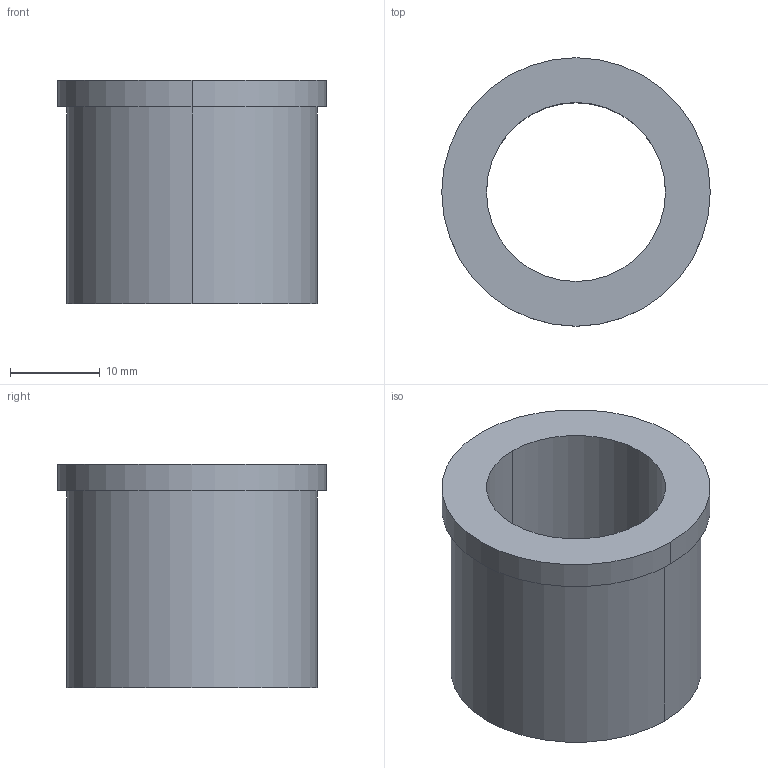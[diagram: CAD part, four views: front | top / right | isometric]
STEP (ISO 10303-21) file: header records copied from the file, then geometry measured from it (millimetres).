
FILE_DESCRIPTION(/* description */ (''),/* implementation_level */ '2;1');
FILE_NAME(/* name */ '3d_tghm20-25_00344_r00.stp',/* time_stamp */ '2011-01-10T14:09:01+09:00',/* author */ ('MISUMI'),/* organization */ (''),/* preprocessor_version */ 'ST-DEVELOPER v11',/* originating_system */ 'UGS - NX 5.0',/* authorisation */ '');
FILE_SCHEMA (('CONFIG_CONTROL_DESIGN'));
Length unit declared in the file: millimetre
Products named in the file (1): 3d_tghm20-25_00344_r00
Bounding box: 30 x 30 x 25 mm (x, y, z)
Volume: 7813.1 mm3; surface area: 4574.2 mm2
Topology: 1 solids, 1 shells, 9 faces, 18 edges, 12 vertices
Faces by surface type: cylinder 6, plane 3
Entity records: 334 total; most frequent: DIRECTION 50, CARTESIAN_POINT 40, ORIENTED_EDGE 36, AXIS2_PLACEMENT_3D 22, EDGE_CURVE 18, EDGE_LOOP 12, VERTEX_POINT 12, CIRCLE 12
